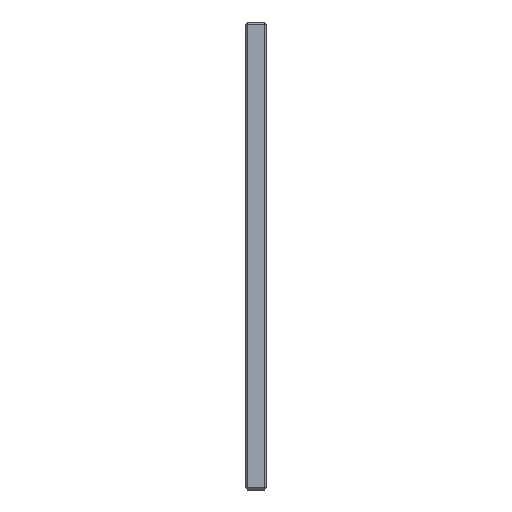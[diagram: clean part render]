
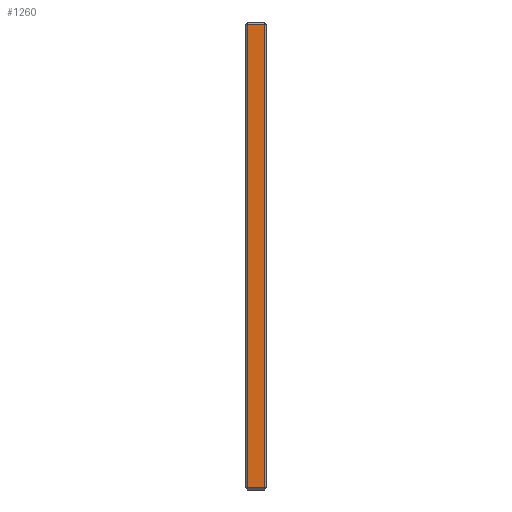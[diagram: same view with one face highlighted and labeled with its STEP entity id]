
A CAD part, left-side view. The second image highlights one B-rep face of the part: STEP entity #1260.
In plain terms, the highlighted planar face has unit normal (-1, 0, 0).
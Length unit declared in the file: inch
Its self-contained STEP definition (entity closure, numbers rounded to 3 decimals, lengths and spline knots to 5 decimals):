
#376 = ORIENTED_EDGE ( 'NONE', *, *, #1991, .T. ) ;
#391 = EDGE_CURVE ( 'NONE', #1903, #925, #1559, .T. ) ;
#565 = CARTESIAN_POINT ( 'NONE',  ( -11.6875, 0.5, -5.375 ) ) ;
#623 = DIRECTION ( 'NONE',  ( 0., 0., 1. ) ) ;
#641 = LINE ( 'NONE', #1537, #941 ) ;
#661 = ORIENTED_EDGE ( 'NONE', *, *, #721, .T. ) ;
#698 = CARTESIAN_POINT ( 'NONE',  ( -11.6875, 0.05, -5.325 ) ) ;
#721 = EDGE_CURVE ( 'NONE', #925, #1794, #641, .T. ) ;
#722 = PLANE ( 'NONE',  #1182 ) ;
#737 = CARTESIAN_POINT ( 'NONE',  ( -11.6875, 0.5, 5.325 ) ) ;
#889 = DIRECTION ( 'NONE',  ( 1., 0., 0. ) ) ;
#896 = DIRECTION ( 'NONE',  ( 0., 1., 0. ) ) ;
#925 = VERTEX_POINT ( 'NONE', #1138 ) ;
#941 = VECTOR ( 'NONE', #1848, 39.37008 ) ;
#1017 = LINE ( 'NONE', #1099, #2061 ) ;
#1049 = DIRECTION ( 'NONE',  ( 0., 0., -1. ) ) ;
#1099 = CARTESIAN_POINT ( 'NONE',  ( -11.6875, 0.5, -5.325 ) ) ;
#1138 = CARTESIAN_POINT ( 'NONE',  ( -11.6875, 0.45, 5.325 ) ) ;
#1181 = VERTEX_POINT ( 'NONE', #698 ) ;
#1182 = AXIS2_PLACEMENT_3D ( 'NONE', #565, #889, #1049 ) ;
#1250 = LINE ( 'NONE', #1732, #1568 ) ;
#1260 = ADVANCED_FACE ( 'Placement Plane', ( #1348 ), #722, .F. ) ;
#1301 = ORIENTED_EDGE ( 'NONE', *, *, #1488, .T. ) ;
#1348 = FACE_OUTER_BOUND ( 'NONE', #1668, .T. ) ;
#1368 = CARTESIAN_POINT ( 'NONE',  ( -11.6875, 0.05, 5.325 ) ) ;
#1488 = EDGE_CURVE ( 'NONE', #1794, #1181, #1017, .T. ) ;
#1518 = ORIENTED_EDGE ( 'NONE', *, *, #391, .T. ) ;
#1537 = CARTESIAN_POINT ( 'NONE',  ( -11.6875, 0.45, -5.375 ) ) ;
#1559 = LINE ( 'NONE', #737, #1665 ) ;
#1568 = VECTOR ( 'NONE', #623, 39.37008 ) ;
#1665 = VECTOR ( 'NONE', #896, 39.37008 ) ;
#1668 = EDGE_LOOP ( 'NONE', ( #661, #1301, #376, #1518 ) ) ;
#1732 = CARTESIAN_POINT ( 'NONE',  ( -11.6875, 0.05, -5.375 ) ) ;
#1794 = VERTEX_POINT ( 'NONE', #1938 ) ;
#1848 = DIRECTION ( 'NONE',  ( 0., 0., -1. ) ) ;
#1884 = DIRECTION ( 'NONE',  ( 0., -1., 0. ) ) ;
#1903 = VERTEX_POINT ( 'NONE', #1368 ) ;
#1938 = CARTESIAN_POINT ( 'NONE',  ( -11.6875, 0.45, -5.325 ) ) ;
#1991 = EDGE_CURVE ( 'NONE', #1181, #1903, #1250, .T. ) ;
#2061 = VECTOR ( 'NONE', #1884, 39.37008 ) ;
